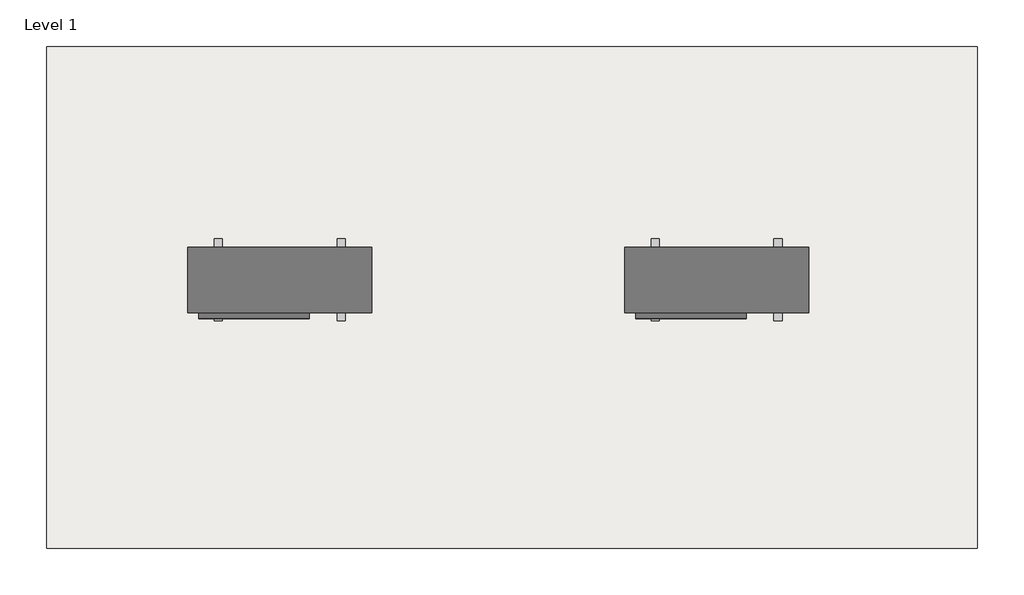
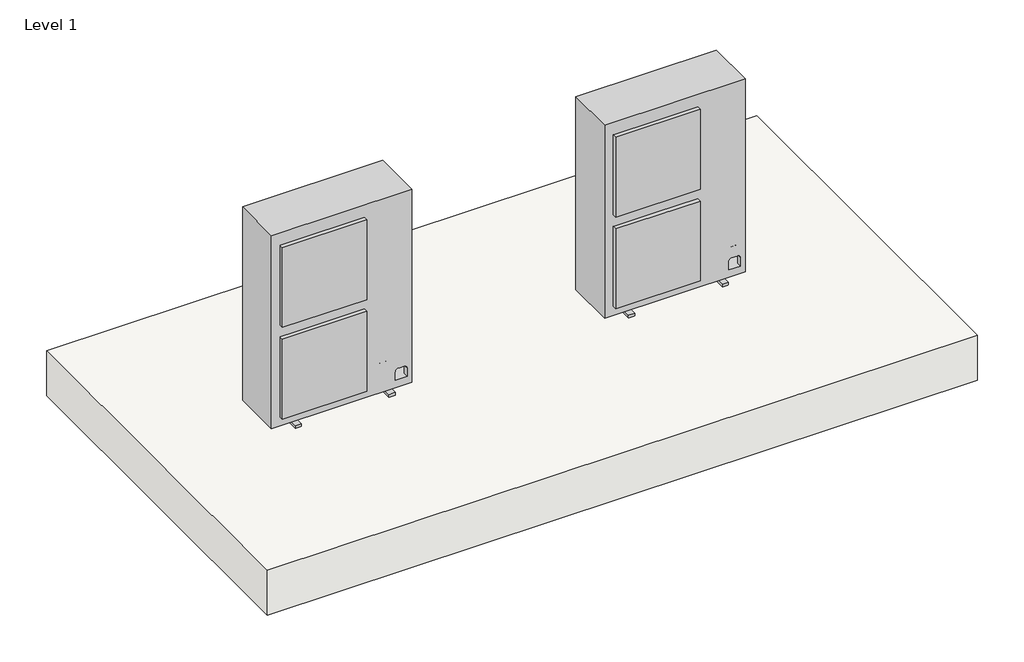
# One storey: 2 proxies, 1 slab.
"""IFC4 building model written with IfcOpenShell, lengths in millimetres."""

from ifc_helpers import new_model, si_unit, frame, origin, place, context, project, spatial, polyline, outline, extrude, transform, mapped, element, save
from components import lennox_vrf_mini_vpa_2p_series_36000_btu_h_c9218847

model = new_model("IFC4")

# Units and contexts
model_context = context("Model", 3, world=origin())
ifc_project = project(units=[si_unit("LENGTHUNIT", "METRE", prefix="MILLI")], contexts=[model_context])

# Site, building, storey
site = spatial("IfcSite", under=ifc_project)
building = spatial("IfcBuilding", under=site)
storey = spatial("IfcBuildingStorey", under=building, Name="Level 1", Elevation=0.0)

# Proxies
placement = place(None, origin())
lennox_vrf_mini_vpa_2p_series_36000_btu_h_shape = lennox_vrf_mini_vpa_2p_series_36000_btu_h_c9218847(model_context)
element("IfcBuildingElementProxy", 1, Name="Lennox-VRF-Mini_VPA-2P_Series : 36000 Btu/h", ObjectType="Lennox-VRF-Mini_VPA-2P_Series : 36000 Btu/h", at=placement, inside=storey, context=model_context, shape_type="MappedRepresentation", body=[
    mapped(lennox_vrf_mini_vpa_2p_series_36000_btu_h_shape, transform((2362.406622, 975.6463444, 0.0), x_axis=(1.0000000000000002, 0.0, 0.0), y_axis=(0.0, 1.0000000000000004, 0.0), z_axis=(0.0, 0.0, 1.0000000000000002))),
])
element("IfcBuildingElementProxy", 2, Name="Lennox-VRF-Mini_VPA-2P_Series : 48000 Btu/h", ObjectType="Lennox-VRF-Mini_VPA-2P_Series : 48000 Btu/h", at=placement, inside=storey, context=model_context, shape_type="MappedRepresentation", body=[
    mapped(lennox_vrf_mini_vpa_2p_series_36000_btu_h_shape, transform((4496.006622, 975.6463444, 0.0), x_axis=(1.0000000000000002, 0.0, 0.0), y_axis=(0.0, 1.0000000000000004, 0.0), z_axis=(0.0, 0.0, 1.0000000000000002))),
])

# Slab
element("IfcSlab", 3, ObjectType="Generic - 12\"", at=placement, inside=storey, context=model_context, shape_type="SweptSolid", body=[
    extrude(outline(polyline([(5770.1973575, 2115.5766815), (5770.1973575, -333.5794355), (1223.5973575, -333.5794355), (1223.5973575, 2115.5766815), (5770.1973575, 2115.5766815)])), frame((0.0, 0.0, -304.8), z_axis=(0.0, 0.0, 1.0), x_axis=(1.0, 0.0, 0.0)), (0.0, 0.0, 1.0), 304.8),
])

save(model, "model.ifc")
